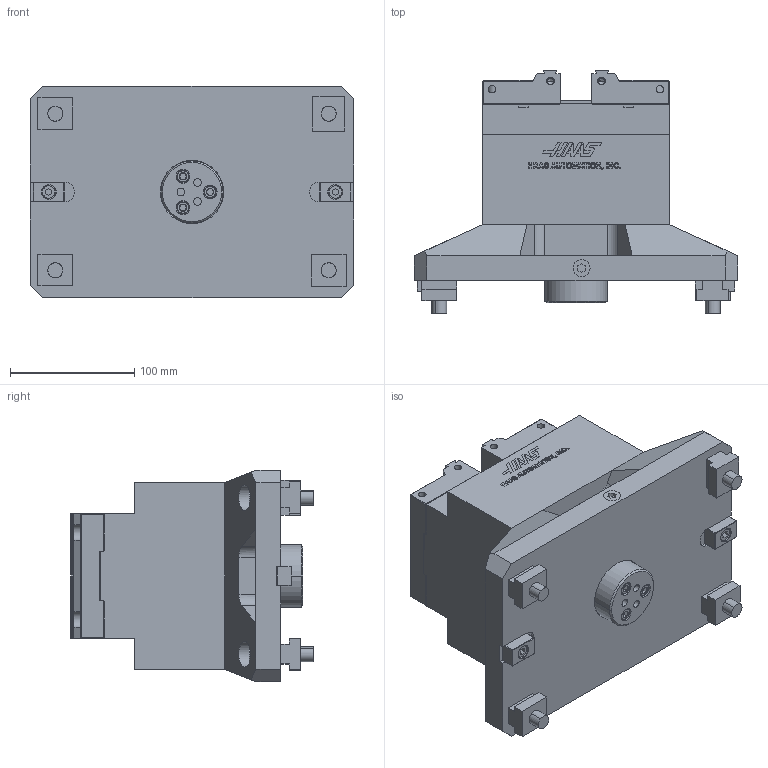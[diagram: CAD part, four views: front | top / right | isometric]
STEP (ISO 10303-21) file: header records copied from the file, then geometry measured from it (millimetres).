
FILE_DESCRIPTION (( 'STEP AP214' ), '1' );
FILE_NAME ('100mm-UMC-ASSEMBLY-STEP.STEP', '2021-09-17T20:35:10', ( '' ), ( '' ), 'SwSTEP 2.0', 'SolidWorks 2020', '' );
FILE_SCHEMA (( 'AUTOMOTIVE_DESIGN' ));
Length unit declared in the file: millimetre
Products named in the file (17): TABLE FASTNERS-100mm-UMC; JAWS ASSEMBLY-100mm-UMC_Simplified; 10000172736; 10000173332_91290A318; 57-2029; 10000175894; 40-1626_40-1626; 58-3105; 10000175895; 10000159732_SIMPLIFIED; 100mm-UMC-ASSEMBLY-STEP; 40-1646_40-1646; 40-16545; BODY-100mm-UMC; 10000175921; 10000172321_BOM Item; PNEUMATICS-100mm-UMC
Assembly tree (36 placements, depth 3):
  100mm-UMC-ASSEMBLY-STEP
    BODY-100mm-UMC
      10000175894
      10000175895
    PNEUMATICS-100mm-UMC
      40-1626_40-1626  x3
      10000175921
      57-2029  x3
      58-3105
    JAWS ASSEMBLY-100mm-UMC_Simplified
      40-1646_40-1646  x8
      10000159732_SIMPLIFIED  x2
    TABLE FASTNERS-100mm-UMC
      10000173332_91290A318  x2
      10000172321_BOM Item  x2
      40-16545  x4
      10000172736  x4
Bounding box: 260 x 195.43 x 170 mm (x, y, z)
Volume: 3891455.7 mm3; surface area: 343138.6 mm2
Topology: 32 solids, 32 shells, 1267 faces, 3151 edges, 1992 vertices
Faces by surface type: plane 683, cylinder 279, cone 149, bspline 144, torus 12
Entity records: 35670 total; most frequent: CARTESIAN_POINT 7007, ORIENTED_EDGE 4450, DIRECTION 3864, EDGE_CURVE 2225, VECTOR 1482, LINE 1482, VERTEX_POINT 1444, AXIS2_PLACEMENT_3D 1191
